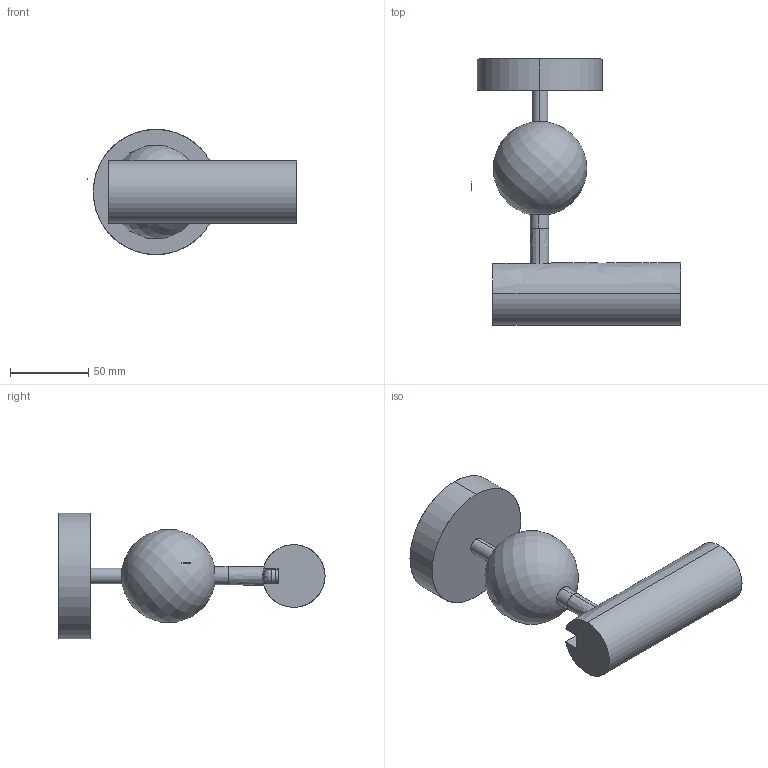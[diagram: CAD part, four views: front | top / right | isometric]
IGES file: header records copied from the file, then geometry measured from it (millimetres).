
Start section: SolidWorks IGES file using analytic representation for surfaces
Global section: file name: C:\Users\adrian\Desktop\AROA\diseño nuevo producto\tecnico\LEDI T0340\FOCO1_ROTULA.IGS; native system: SolidWorks 2023; preprocessor: SolidWorks 2023; author: adrian; date: 260828.112817; units: millimetre
Bounding box: 133.81 x 170 x 80 mm (x, y, z)
Surface area: 66710.6 mm2 (no closed solid volume)
Topology: 0 solids, 0 shells, 75 faces, 1499 edges, 1493 vertices
Faces by surface type: bspline 53, revolution 22
